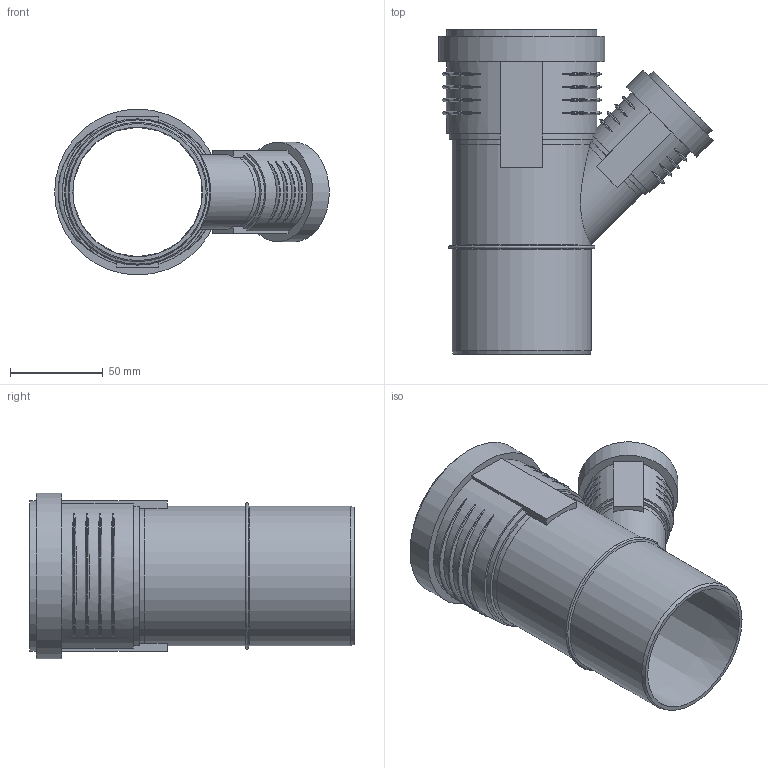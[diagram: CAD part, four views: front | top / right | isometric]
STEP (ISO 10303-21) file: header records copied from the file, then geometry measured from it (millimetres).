
FILE_DESCRIPTION(/* description */ (''),/* implementation_level */ '2;1');
FILE_NAME(/* name */ 'Z:\Geberit\Export\NewStep\390331.stp',/* time_stamp */ '2014-04-02T08:11:45+02:00',/* author */ ('ML'),/* organization */ (''),/* preprocessor_version */ 'ST-DEVELOPER v15.2',/* originating_system */ 'Autodesk Inventor 2014',/* authorisation */ '');
FILE_SCHEMA (('AUTOMOTIVE_DESIGN { 1 0 10303 214 3 1 1 }'));
Length unit declared in the file: millimetre
Products named in the file (4): 861339; 861400; 861402; 390331
Bounding box: 148.28 x 175.2 x 89.6 mm (x, y, z)
Volume: 141174.9 mm3; surface area: 118853.2 mm2
Topology: 3 solids, 3 shells, 124 faces, 304 edges, 212 vertices
Faces by surface type: torus 50, plane 37, cylinder 30, cone 7
Full cylindrical faces by diameter (mm): 36.15 x2, 40.15 x2, 41 x2, 45 x1, 49.7 x1, 53.7 x1, 70.2 x1, 75.2 x3, 76.2 x2, 81.2 x1, 84.6 x1, 89.6 x1
Entity records: 4995 total; most frequent: CARTESIAN_POINT 2087, ORIENTED_EDGE 534, DIRECTION 528, EDGE_CURVE 267, AXIS2_PLACEMENT_3D 228, VERTEX_POINT 203, EDGE_LOOP 186, STYLED_ITEM 124
